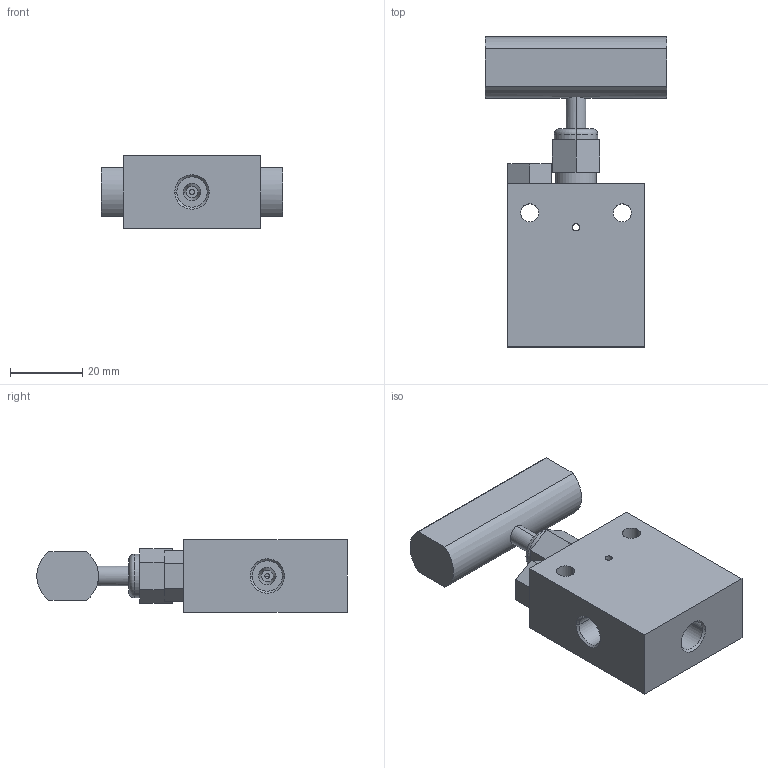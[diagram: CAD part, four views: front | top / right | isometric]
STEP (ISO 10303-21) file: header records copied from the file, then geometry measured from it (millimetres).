
FILE_DESCRIPTION (( 'STEP AP203' ), '1' );
FILE_NAME ('NV15VS02-A-00-00.STEP', '2023-02-22T07:22:24', ( 'USER' ), ( '' ), 'SwSTEP 2.0', 'SolidWorks 2020', '' );
FILE_SCHEMA (( 'CONFIG_CONTROL_DESIGN' ));
Length unit declared in the file: millimetre
Products named in the file (1): NV15VS02-A-00-00
Bounding box: 50 x 85.56 x 20 mm (x, y, z)
Volume: 45110.8 mm3; surface area: 12190.1 mm2
Topology: 1 solids, 1 shells, 78 faces, 177 edges, 112 vertices
Faces by surface type: cylinder 32, plane 32, cone 12, torus 2
Entity records: 2458 total; most frequent: CARTESIAN_POINT 558, DIRECTION 397, ORIENTED_EDGE 354, EDGE_CURVE 177, AXIS2_PLACEMENT_3D 149, VERTEX_POINT 112, EDGE_LOOP 99, VECTOR 99
